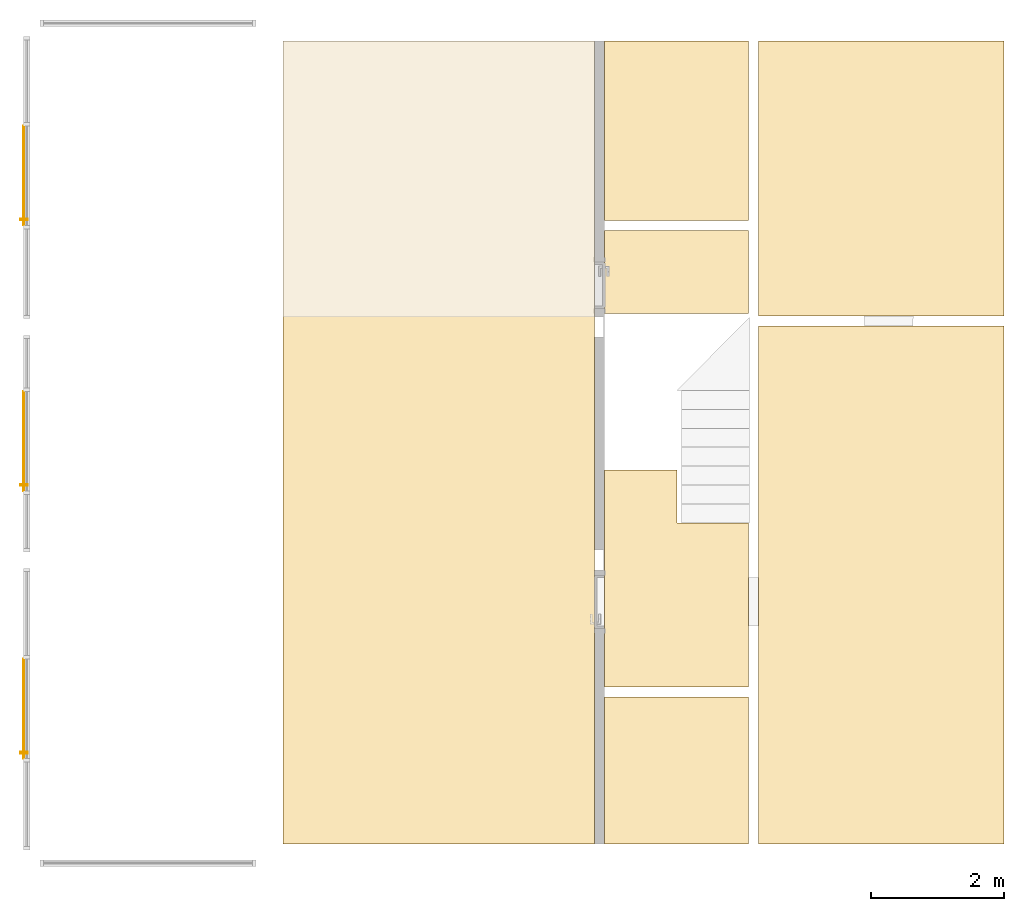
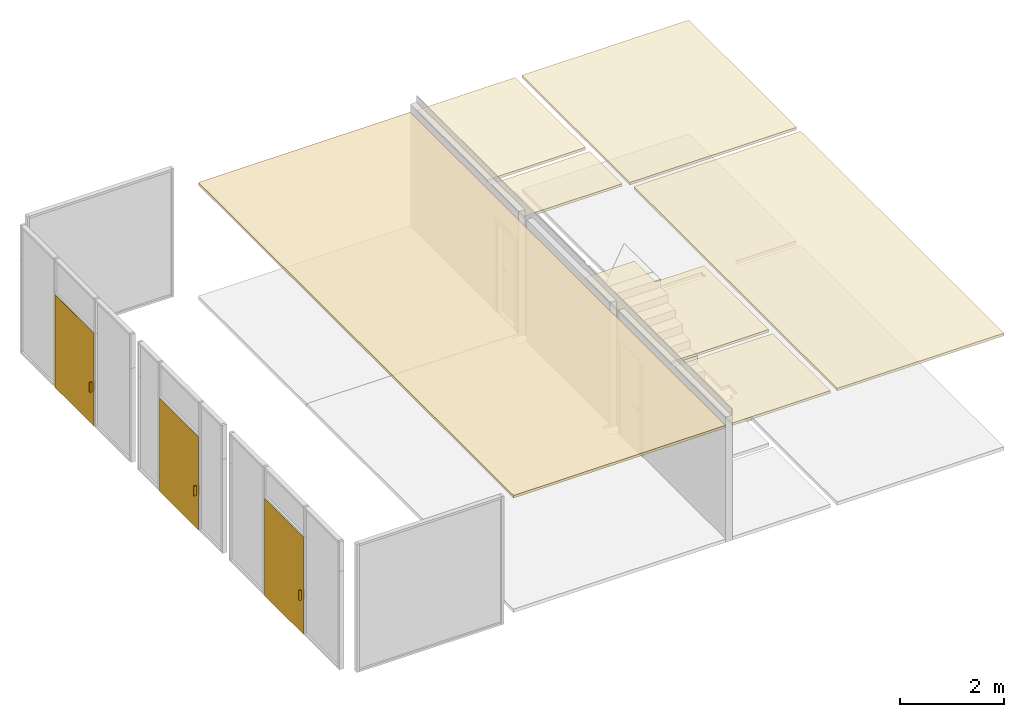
# One storey, part 4 of 4: 8 coverings, 3 doors, 3 elements without a shape of their own.
"""IFC2X3 building model written with IfcOpenShell, lengths in metres."""

from ifc_helpers import new_model, entity, si_unit, converted_unit, derived_unit, direction, frame, frame_2d, origin, origin_2d_with_axis, place, context, subcontext, project, spatial, polyline, rectangle, outline, extrude, source, transform, mapped, material, material_list, layer, layer_set, layer_usage, type_object, type_shapes, element, aggregate, save


model = new_model("IFC2X3")

# Units and contexts
model_context = context("Model", 3, precision=1e-05, world=origin(), true_north=direction((6.12303176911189e-17, 1.0)))
context_of_model = context(None, 3, precision=1e-05, world=origin(), true_north=direction((6.12303176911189e-17, 1.0)))
body_context = subcontext(model_context, "Body", "Model", "MODEL_VIEW")
ifc_project = project(units=[si_unit("LENGTHUNIT", "METRE"), si_unit("AREAUNIT", "SQUARE_METRE"), si_unit("VOLUMEUNIT", "CUBIC_METRE"), converted_unit("PLANEANGLEUNIT", "DEGREE", entity("IfcRatioMeasure", 0.0174532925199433), si_unit("PLANEANGLEUNIT", "RADIAN"), dimensions=[0, 0, 0, 0, 0, 0, 0]), si_unit("MASSUNIT", "GRAM", prefix="KILO"), si_unit("TIMEUNIT", "SECOND"), si_unit("FREQUENCYUNIT", "HERTZ"), si_unit("THERMODYNAMICTEMPERATUREUNIT", "DEGREE_CELSIUS"), derived_unit("THERMALTRANSMITTANCEUNIT", [(si_unit("MASSUNIT", "GRAM", prefix="KILO"), 1), (si_unit("THERMODYNAMICTEMPERATUREUNIT", "KELVIN"), -1), (si_unit("TIMEUNIT", "SECOND"), -3)]), derived_unit("VOLUMETRICFLOWRATEUNIT", [(si_unit("LENGTHUNIT", "METRE"), 3), (si_unit("TIMEUNIT", "SECOND"), -1)]), si_unit("ELECTRICCURRENTUNIT", "AMPERE"), si_unit("ELECTRICVOLTAGEUNIT", "VOLT"), si_unit("POWERUNIT", "WATT"), si_unit("FORCEUNIT", "NEWTON", prefix="KILO"), si_unit("ILLUMINANCEUNIT", "LUX"), si_unit("LUMINOUSFLUXUNIT", "LUMEN"), si_unit("LUMINOUSINTENSITYUNIT", "CANDELA"), si_unit("PRESSUREUNIT", "PASCAL")], contexts=[model_context, context_of_model])

# Site, building, storey
site_placement = place(None, origin())
site = spatial("IfcSite", under=ifc_project, at=site_placement, Name="Default", CompositionType="ELEMENT")
building_placement = place(site_placement, origin())
building = spatial("IfcBuilding", under=site, at=building_placement, CompositionType="ELEMENT")
storey_placement = place(building_placement, frame((0.0, 0.0, 0.2)))
storey = spatial("IfcBuildingStorey", under=building, at=storey_placement, Name="01.AR.PLANTA BAJA ACAB.SUELO", CompositionType="ELEMENT", Elevation=0.2)

# Curtain wall, door
curtain_wall_type = type_object("IfcCurtainWallType", Name="Muro cortina:Muro cortina - simple", PredefinedType="NOTDEFINED")
curtain_wall_1_placement = place(storey_placement, frame((0.0, 0.0, -0.2)))
curtain_wall_1 = element("IfcCurtainWall", 1, at=curtain_wall_1_placement, inside=storey, type_object=curtain_wall_type, Name="Muro cortina:Muro cortina - simple", ObjectType="Muro cortina:Muro cortina - simple")
ifc_material_1 = material(Name="Metal - Aluminio")
ifc_material_2 = material(Name="Vidrio")
ifc_material_list_1 = material_list([ifc_material_1, ifc_material_2])
ifc_material_list_2 = material_list([ifc_material_1, ifc_material_2])
door_style_1 = type_object("IfcDoorStyle", Name="Puerta de cristal abatible en muro cortina", ConstructionType="NOTDEFINED", OperationType="SINGLE_SWING_LEFT", ParameterTakesPrecedence=False, Sizeable=False, material=ifc_material_list_2)
shared_shape_1 = source(origin(), body_context, "Body", "SweptSolid", [
    extrude(rectangle(XDim=0.0508, YDim=0.0254, at=frame_2d((0.0, 6.76542155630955e-17), x_axis=(1.0, 0.0))), frame((-0.6611, 0.0129000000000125, 0.761999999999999), z_axis=(0.0, 0.0, 1.0), x_axis=(0.0, 1.0, 0.0)), (0.0, 0.0, 1.0), 0.2286),
    extrude(rectangle(XDim=0.0508, YDim=0.0253999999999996, at=frame_2d((3.46944695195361e-18, 0.0), x_axis=(1.0, 0.0))), frame((-0.6611, 0.0764000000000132, 0.762), z_axis=(0.0, 0.0, 1.0), x_axis=(0.0, -1.0, 0.0)), (0.0, 0.0, 1.0), 0.2286),
    extrude(rectangle(XDim=1.5, YDim=0.0127000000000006, at=frame_2d((0.0, 4.33680868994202e-18), x_axis=(1.0, 0.0))), frame((0.0, 0.0446500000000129, 0.0), z_axis=(0.0, 0.0, 1.0), x_axis=(-1.0, 0.0, 0.0)), (0.0, 0.0, 1.0), 2.275),
])
type_shapes(door_style_1, [shared_shape_1])
door_1_placement = place(curtain_wall_1_placement, frame((0.524999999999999, 2.85006108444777, 0.2), z_axis=(0.0, 0.0, 1.0), x_axis=(0.0, 1.0, 0.0)))
door_1 = element("IfcDoor", 2, at=door_1_placement, type_object=door_style_1, material=ifc_material_list_1, Name="Puerta de cristal abatible en muro cortina:Puerta de cristal abatible en muro cortina", ObjectType="Puerta de cristal abatible en muro cortina", OverallHeight=2.275, OverallWidth=1.5, context=body_context, shape_type="MappedRepresentation", body=[
    mapped(shared_shape_1, transform((0.0, 0.0, 0.0), scale=1.0)),
])
aggregate(curtain_wall_1, [door_1])

curtain_wall_2_placement = place(storey_placement, frame((0.0, 0.0, -0.2)))
curtain_wall_2 = element("IfcCurtainWall", 3, at=curtain_wall_2_placement, inside=storey, type_object=curtain_wall_type, Name="Muro cortina:Muro cortina - simple", ObjectType="Muro cortina:Muro cortina - simple")
ifc_material_list_3 = material_list([ifc_material_1, ifc_material_2])
ifc_material_list_4 = material_list([ifc_material_1, ifc_material_2])
door_style_2 = type_object("IfcDoorStyle", Name="Puerta de cristal abatible en muro cortina", ConstructionType="NOTDEFINED", OperationType="SINGLE_SWING_LEFT", ParameterTakesPrecedence=False, Sizeable=False, material=ifc_material_list_4)
shared_shape_2 = source(origin(), body_context, "Body", "SweptSolid", [
    extrude(rectangle(XDim=0.0508, YDim=0.0254, at=frame_2d((0.0, 6.76542155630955e-17), x_axis=(1.0, 0.0))), frame((-0.661099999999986, 0.0129000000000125, 0.761999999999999), z_axis=(0.0, 0.0, 1.0), x_axis=(0.0, 1.0, 0.0)), (0.0, 0.0, 1.0), 0.2286),
    extrude(rectangle(XDim=0.0508, YDim=0.0253999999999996, at=frame_2d((3.46944695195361e-18, 0.0), x_axis=(1.0, 0.0))), frame((-0.661099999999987, 0.0764000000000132, 0.762), z_axis=(0.0, 0.0, 1.0), x_axis=(0.0, -1.0, 0.0)), (0.0, 0.0, 1.0), 0.2286),
    extrude(rectangle(XDim=1.49999999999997, YDim=0.0127000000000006, at=frame_2d((0.0, 4.33680868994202e-18), x_axis=(1.0, 0.0))), frame((0.0, 0.0446500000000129, 0.0), z_axis=(0.0, 0.0, 1.0), x_axis=(-1.0, 0.0, 0.0)), (0.0, 0.0, 1.0), 2.175),
])
type_shapes(door_style_2, [shared_shape_2])
door_2_placement = place(curtain_wall_2_placement, frame((0.525000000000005, 6.88000000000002, 0.2), z_axis=(0.0, 0.0, 1.0), x_axis=(0.0, 1.0, 0.0)))
door_2 = element("IfcDoor", 4, at=door_2_placement, type_object=door_style_2, material=ifc_material_list_3, Name="Puerta de cristal abatible en muro cortina:Puerta de cristal abatible en muro cortina", ObjectType="Puerta de cristal abatible en muro cortina", OverallHeight=2.175, OverallWidth=1.49999999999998, context=body_context, shape_type="MappedRepresentation", body=[
    mapped(shared_shape_2, transform((0.0, 0.0, 0.0), scale=1.0)),
])
aggregate(curtain_wall_2, [door_2])

curtain_wall_3_placement = place(storey_placement, frame((0.0, 0.0, -0.2)))
curtain_wall_3 = element("IfcCurtainWall", 5, at=curtain_wall_3_placement, inside=storey, type_object=curtain_wall_type, Name="Muro cortina:Muro cortina - simple", ObjectType="Muro cortina:Muro cortina - simple")
ifc_material_list_5 = material_list([ifc_material_1, ifc_material_2])
door_3_placement = place(curtain_wall_3_placement, frame((0.525000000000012, 10.88, 0.2), z_axis=(0.0, 0.0, 1.0), x_axis=(0.0, 1.0, 0.0)))
door_3 = element("IfcDoor", 6, at=door_3_placement, type_object=door_style_2, material=ifc_material_list_5, Name="Puerta de cristal abatible en muro cortina:Puerta de cristal abatible en muro cortina", ObjectType="Puerta de cristal abatible en muro cortina", OverallHeight=2.175, OverallWidth=1.49999999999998, context=body_context, shape_type="MappedRepresentation", body=[
    mapped(shared_shape_2, transform((0.0, 0.0, 0.0), scale=1.0)),
])
aggregate(curtain_wall_3, [door_3])

# Coverings
ifc_material_3 = material(Name="Metal - Perfiles de acero galvanizado")
ifc_layer_1 = layer(ifc_material_3, 0.045)
ifc_material_4 = material(Name="Placa de yeso laminado")
ifc_layer_2 = layer(ifc_material_4, 0.015)
ifc_layer_set = layer_set([ifc_layer_1, ifc_layer_2], Name="Techo compuesto:Falso techo continuo de placa de yeso laminado")
ifc_layer_usage_1 = layer_usage(ifc_layer_set, "AXIS3", "NEGATIVE", 0.0)
covering_1_placement = place(storey_placement, origin())
element("IfcCovering", 7, at=covering_1_placement, inside=storey, material=ifc_layer_usage_1, Name="Techo compuesto:Falso techo continuo de placa de yeso laminado", ObjectType="Techo compuesto:Falso techo continuo de placa de yeso laminado", PredefinedType="CEILING", context=body_context, shape_type="SweptSolid", body=[
    extrude(rectangle(XDim=2.17000000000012, YDim=2.20999999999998, at=frame_2d((-1.11022302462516e-15, 2.22044604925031e-16), x_axis=(1.0, 0.0))), frame((10.315, 1.92000000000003, 2.6), z_axis=(0.0, 0.0, 1.0), x_axis=(-1.0, 0.0, 0.0)), (0.0, 0.0, 1.0), 0.0599999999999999),
])
ifc_layer_usage_2 = layer_usage(ifc_layer_set, "AXIS3", "NEGATIVE", 0.0)
covering_2_placement = place(storey_placement, origin())
element("IfcCovering", 8, at=covering_2_placement, inside=storey, material=ifc_layer_usage_2, Name="Techo compuesto:Falso techo continuo de placa de yeso laminado", ObjectType="Techo compuesto:Falso techo continuo de placa de yeso laminado", PredefinedType="CEILING", context=body_context, shape_type="SweptSolid", body=[
    extrude(rectangle(XDim=7.79999999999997, YDim=3.69499999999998, at=frame_2d((-6.66133814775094e-16, -2.22044604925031e-15), x_axis=(1.0, 0.0))), frame((13.3975, 4.71500000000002, 2.6), z_axis=(0.0, 0.0, 1.0), x_axis=(0.0, 1.0, 0.0)), (0.0, 0.0, 1.0), 0.0599999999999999),
])
ifc_layer_usage_3 = layer_usage(ifc_layer_set, "AXIS3", "NEGATIVE", 0.0)
covering_3_placement = place(storey_placement, origin())
element("IfcCovering", 9, at=covering_3_placement, inside=storey, material=ifc_layer_usage_3, Name="Techo compuesto:Falso techo continuo de placa de yeso laminado", ObjectType="Techo compuesto:Falso techo continuo de placa de yeso laminado", PredefinedType="CEILING", context=body_context, shape_type="SweptSolid", body=[
    extrude(rectangle(XDim=4.14151773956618, YDim=3.69499999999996, at=frame_2d((0.0, 1.11022302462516e-15), x_axis=(1.0, 0.0))), frame((13.3975, 10.8357588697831, 2.6), z_axis=(0.0, 0.0, 1.0), x_axis=(0.0, -1.0, 0.0)), (0.0, 0.0, 1.0), 0.0599999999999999),
])
ifc_layer_usage_4 = layer_usage(ifc_layer_set, "AXIS3", "NEGATIVE", 0.0)
covering_4_placement = place(storey_placement, origin())
element("IfcCovering", 10, at=covering_4_placement, inside=storey, material=ifc_layer_usage_4, Name="Techo compuesto:Falso techo continuo de placa de yeso laminado", ObjectType="Techo compuesto:Falso techo continuo de placa de yeso laminado", PredefinedType="CEILING", context=body_context, shape_type="SweptSolid", body=[
    extrude(rectangle(XDim=2.17000000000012, YDim=2.70151773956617, at=frame_2d((1.11022302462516e-15, -1.11022302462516e-15), x_axis=(1.0, 0.0))), frame((10.315, 11.5557588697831, 2.6)), (0.0, 0.0, 1.0), 0.0599999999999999),
])
ifc_layer_usage_5 = layer_usage(ifc_layer_set, "AXIS3", "NEGATIVE", 0.0)
covering_5_placement = place(storey_placement, origin())
element("IfcCovering", 11, at=covering_5_placement, inside=storey, material=ifc_layer_usage_5, Name="Techo compuesto:Falso techo continuo de placa de yeso laminado", ObjectType="Techo compuesto:Falso techo continuo de placa de yeso laminado", PredefinedType="CEILING", context=body_context, shape_type="SweptSolid", body=[
    extrude(rectangle(XDim=1.25, YDim=2.17000000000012, at=origin_2d_with_axis()), frame((10.315, 9.43000000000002, 2.6), z_axis=(0.0, 0.0, 1.0), x_axis=(0.0, 1.0, 0.0)), (0.0, 0.0, 1.0), 0.0599999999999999),
])
ifc_layer_usage_6 = layer_usage(ifc_layer_set, "AXIS3", "NEGATIVE", 0.0)
covering_6_placement = place(storey_placement, origin())
element("IfcCovering", 12, at=covering_6_placement, inside=storey, material=ifc_layer_usage_6, Name="Techo compuesto:Falso techo continuo de placa de yeso laminado", ObjectType="Techo compuesto:Falso techo continuo de placa de yeso laminado", PredefinedType="CEILING", context=body_context, shape_type="SweptSolid", body=[
    extrude(rectangle(XDim=12.0915177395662, YDim=4.69499999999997, at=frame_2d((0.0, 6.66133814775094e-16), x_axis=(1.0, 0.0))), frame((6.73249999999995, 6.86075886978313, 2.6), z_axis=(0.0, 0.0, 1.0), x_axis=(0.0, 1.0, 0.0)), (0.0, 0.0, 1.0), 0.0599999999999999),
])
ifc_layer_usage_7 = layer_usage(ifc_layer_set, "AXIS3", "NEGATIVE", 0.0)
covering_7_placement = place(storey_placement, origin())
element("IfcCovering", 13, at=covering_7_placement, inside=storey, material=ifc_layer_usage_7, Name="Techo compuesto:Falso techo continuo de placa de yeso laminado", ObjectType="Techo compuesto:Falso techo continuo de placa de yeso laminado", PredefinedType="CEILING", context=body_context, shape_type="SweptSolid", body=[
    extrude(rectangle(XDim=12.0915177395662, YDim=4.69499999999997, at=frame_2d((0.0, 6.66133814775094e-16), x_axis=(1.0, 0.0))), frame((6.73249999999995, 6.86075886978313, 2.6), z_axis=(0.0, 0.0, 1.0), x_axis=(0.0, 1.0, 0.0)), (0.0, 0.0, 1.0), 0.0599999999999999),
])
ifc_layer_usage_8 = layer_usage(ifc_layer_set, "AXIS3", "NEGATIVE", 0.0)
covering_8_placement = place(storey_placement, origin())
element("IfcCovering", 14, at=covering_8_placement, inside=storey, material=ifc_layer_usage_8, Name="Techo compuesto:Falso techo continuo de placa de yeso laminado", ObjectType="Techo compuesto:Falso techo continuo de placa de yeso laminado", PredefinedType="CEILING", context=body_context, shape_type="SweptSolid", body=[
    extrude(outline(polyline([(-1.91666666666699, -1.08333333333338), (0.558333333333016, -1.08333333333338), (0.558333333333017, -0.00333333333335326), (1.35833333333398, -0.00333333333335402), (1.35833333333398, 1.08666666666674), (-1.91666666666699, 1.08666666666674), (-1.91666666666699, -1.08333333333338)])), frame((10.3166666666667, 5.09166666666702, 2.6), z_axis=(0.0, 0.0, 1.0), x_axis=(0.0, 1.0, 0.0)), (0.0, 0.0, 1.0), 0.0599999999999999),
])

save(model, "model.ifc")
